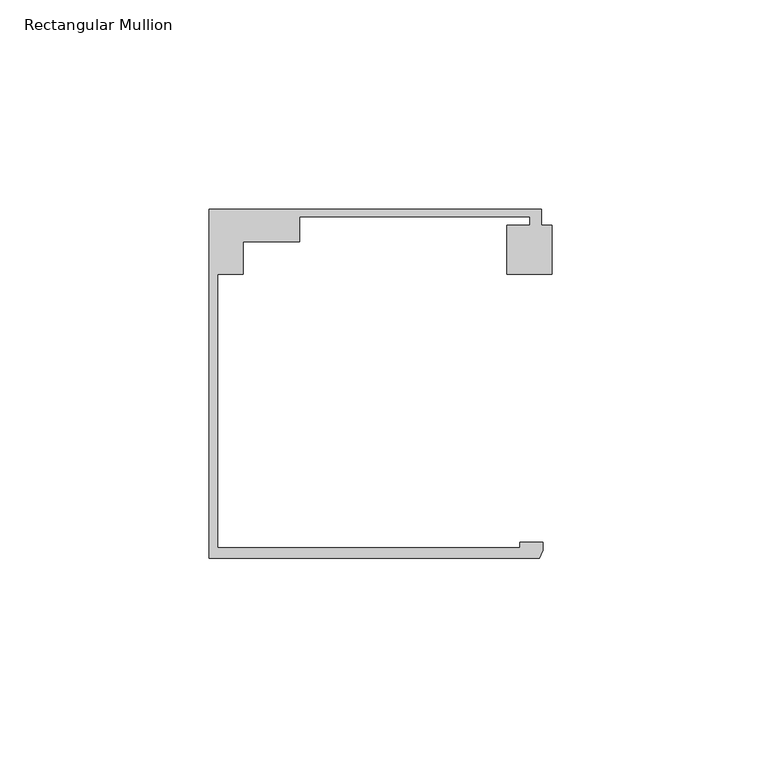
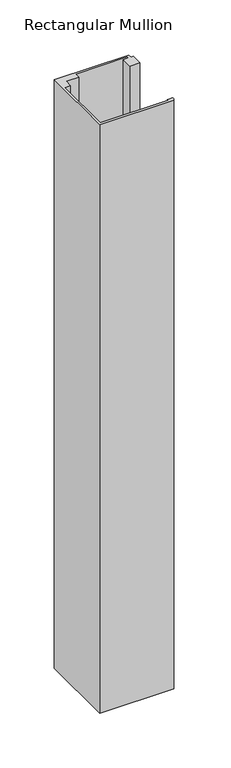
"""IFC4 building model written with IfcOpenShell, lengths in millimetres: member geometry, Rectangular Mullion : Danpal_Airpt_End-Mullion_B1."""

from ifc_helpers import new_model, si_unit, frame, origin, place, context, project, spatial, polyline, outline, extrude, source, transform, mapped, element, save


def rectangular_mullion_f377401c(model_context):
    return source(origin(), model_context, "Body", "SweptSolid", [
        extrude(outline(polyline([(24.3058808, -74.9940824), (24.3058808, -73.6940824), (29.8368746, -73.6940824), (29.8368746, -75.5472671), (28.9099149, -77.4940825), (-49.941586, -77.4940825), (-49.941586, 5.8051514), (29.4059014, 5.8051514), (29.4059014, 2.0051513), (31.9176464, 2.0051513), (31.9176464, -9.6875514), (21.2017673, -9.6875514), (21.2017673, 2.0051513), (26.7062306, 2.0051513), (26.7062306, 4.0051512), (-28.3937694, 4.0051512), (-28.3937694, -1.8818054), (-41.841586, -1.8818054), (-41.841586, -9.7188964), (-47.9415858, -9.7188964), (-47.9415858, -74.9940824), (24.3058808, -74.9940824)])), frame((0.0, 0.0, -661.9176464), z_axis=(0.0, 0.0, 1.0), x_axis=(1.0, 0.0, 0.0)), (0.0, 0.0, 1.0), 661.9176464),
    ])


if __name__ == "__main__":
    model = new_model("IFC4")
    model_context = context("Model", 3, world=origin())
    ifc_project = project(units=[si_unit("LENGTHUNIT", "METRE", prefix="MILLI")], contexts=[model_context])
    site = spatial("IfcSite", under=ifc_project)
    building = spatial("IfcBuilding", under=site)
    placement = place(None, origin())
    rectangular_mullion_shape = rectangular_mullion_f377401c(model_context)
    element("IfcMember", 1, ObjectType="Rectangular Mullion : Danpal_Airpt_End-Mullion_B1", at=placement, inside=building, context=model_context, shape_type="MappedRepresentation", body=[
        mapped(rectangular_mullion_shape, transform((0.0, 0.0, 0.0), x_axis=(1.0, 0.0, 0.0), y_axis=(0.0, 1.0, 0.0), z_axis=(0.0, 0.0, 1.0))),
    ])
    save(model, "model.ifc")
